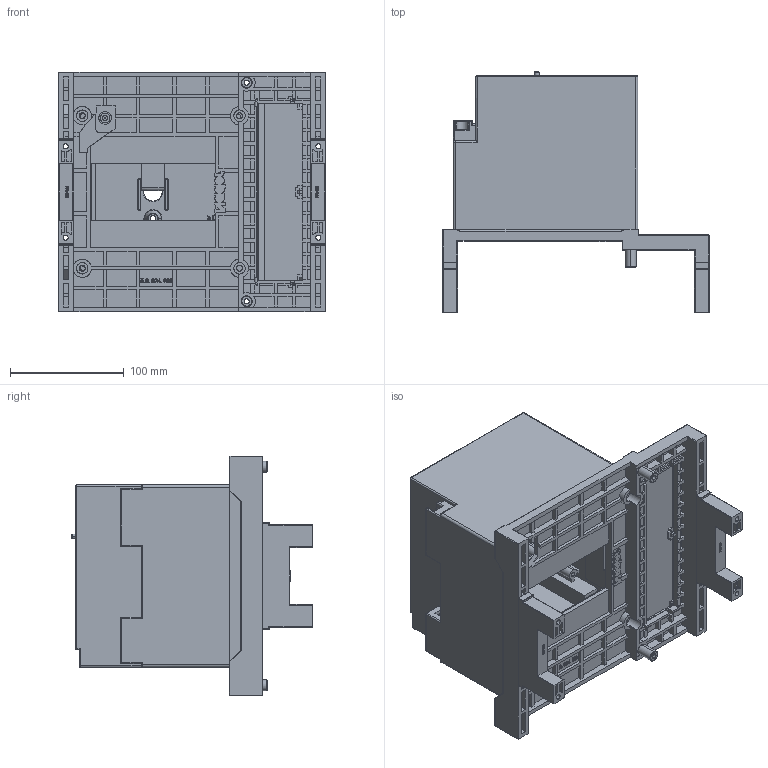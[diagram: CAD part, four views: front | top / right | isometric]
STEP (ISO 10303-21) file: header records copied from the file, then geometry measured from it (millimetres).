
FILE_DESCRIPTION (( 'STEP AP203' ), '1' );
FILE_NAME ('M5-1600-4P+电操-3D模型图【20211123】.STEP', '2021-12-21T05:45:16', ( '' ), ( '' ), 'SwSTEP 2.0', 'SolidWorks 2018', '' );
FILE_SCHEMA (( 'CONFIG_CONTROL_DESIGN' ));
Products named in the file (1): M5-1600-4P+电操-3D模型图【20211123】11123__11123__
Bounding box: 234 x 211.7 x 210 mm (x, y, z)
Volume: 774957.3 mm3; surface area: 496774.5 mm2
Topology: 10 solids, 10 shells, 2323 faces, 6176 edges, 3992 vertices
Faces by surface type: plane 1464, cylinder 475, bspline 267, torus 53, sphere 41, cone 23
Entity records: 102793 total; most frequent: CARTESIAN_POINT 58204, ORIENTED_EDGE 12274, EDGE_CURVE 6137, B_SPLINE_CURVE_WITH_KNOTS 6136, DIRECTION 4116, VERTEX_POINT 3992, EDGE_LOOP 2565, FACE_OUTER_BOUND 2323
